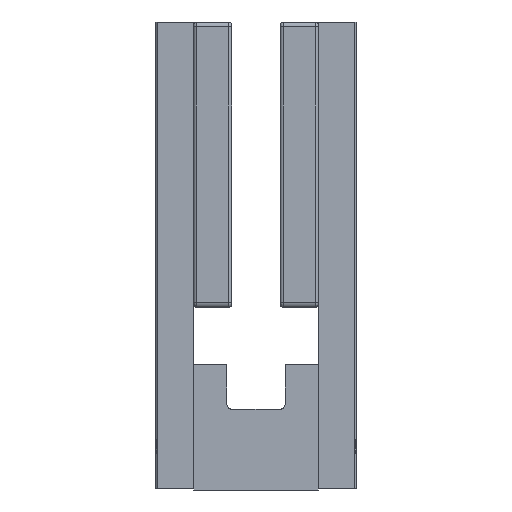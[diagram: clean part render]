
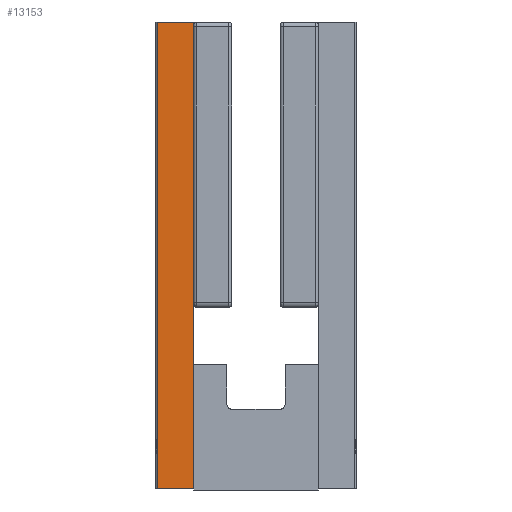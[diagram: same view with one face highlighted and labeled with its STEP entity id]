
A CAD part, left-side view. The second image highlights one B-rep face of the part: STEP entity #13153.
In plain terms, the highlighted planar face has unit normal (-1, 0, 0).
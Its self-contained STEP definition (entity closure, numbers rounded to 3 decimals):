
#547 = DIRECTION ( 'NONE',  ( 0., 1., 0. ) ) ;
#902 = DIRECTION ( 'NONE',  ( 0., 0., -1. ) ) ;
#1531 = EDGE_CURVE ( 'NONE', #5488, #2374, #26475, .T. ) ;
#1948 = DIRECTION ( 'NONE',  ( 0., 1., 0. ) ) ;
#2260 = CARTESIAN_POINT ( 'NONE',  ( -59.95, 55.196, -24.5 ) ) ;
#2374 = VERTEX_POINT ( 'NONE', #2260 ) ;
#2771 = CARTESIAN_POINT ( 'NONE',  ( -59.95, 55.196, 24.5 ) ) ;
#3770 = FACE_OUTER_BOUND ( 'NONE', #22439, .T. ) ;
#4005 = DIRECTION ( 'NONE',  ( 0., 0., -1. ) ) ;
#4822 = EDGE_CURVE ( 'NONE', #13269, #15653, #25094, .T. ) ;
#4854 = ORIENTED_EDGE ( 'NONE', *, *, #24637, .T. ) ;
#5180 = ORIENTED_EDGE ( 'NONE', *, *, #4822, .T. ) ;
#5488 = VERTEX_POINT ( 'NONE', #23279 ) ;
#6025 = CARTESIAN_POINT ( 'NONE',  ( -59.95, 55.196, 24.5 ) ) ;
#6134 = VECTOR ( 'NONE', #4005, 1000. ) ;
#10047 = LINE ( 'NONE', #26795, #20828 ) ;
#11342 = LINE ( 'NONE', #2771, #25877 ) ;
#12353 = PLANE ( 'NONE',  #12607 ) ;
#12607 = AXIS2_PLACEMENT_3D ( 'NONE', #6025, #14598, #1948 ) ;
#13153 = ADVANCED_FACE ( 'NONE', ( #3770 ), #12353, .F. ) ;
#13269 = VERTEX_POINT ( 'NONE', #23705 ) ;
#13271 = VECTOR ( 'NONE', #902, 1000. ) ;
#13327 = CARTESIAN_POINT ( 'NONE',  ( -59.95, 58.996, -24.5 ) ) ;
#13970 = CARTESIAN_POINT ( 'NONE',  ( -59.95, 55.196, 24.5 ) ) ;
#14598 = DIRECTION ( 'NONE',  ( 1., 0., 0. ) ) ;
#15653 = VERTEX_POINT ( 'NONE', #13327 ) ;
#16526 = DIRECTION ( 'NONE',  ( 0., 1., 0. ) ) ;
#18401 = ORIENTED_EDGE ( 'NONE', *, *, #22085, .F. ) ;
#20828 = VECTOR ( 'NONE', #16526, 1000. ) ;
#22085 = EDGE_CURVE ( 'NONE', #2374, #15653, #10047, .T. ) ;
#22439 = EDGE_LOOP ( 'NONE', ( #4854, #5180, #18401, #26041 ) ) ;
#23118 = CARTESIAN_POINT ( 'NONE',  ( -59.95, 58.996, 24.5 ) ) ;
#23279 = CARTESIAN_POINT ( 'NONE',  ( -59.95, 55.196, 24.5 ) ) ;
#23705 = CARTESIAN_POINT ( 'NONE',  ( -59.95, 58.996, 24.5 ) ) ;
#24637 = EDGE_CURVE ( 'NONE', #5488, #13269, #11342, .T. ) ;
#25094 = LINE ( 'NONE', #23118, #6134 ) ;
#25877 = VECTOR ( 'NONE', #547, 1000. ) ;
#26041 = ORIENTED_EDGE ( 'NONE', *, *, #1531, .F. ) ;
#26475 = LINE ( 'NONE', #13970, #13271 ) ;
#26795 = CARTESIAN_POINT ( 'NONE',  ( -59.95, 55.196, -24.5 ) ) ;
